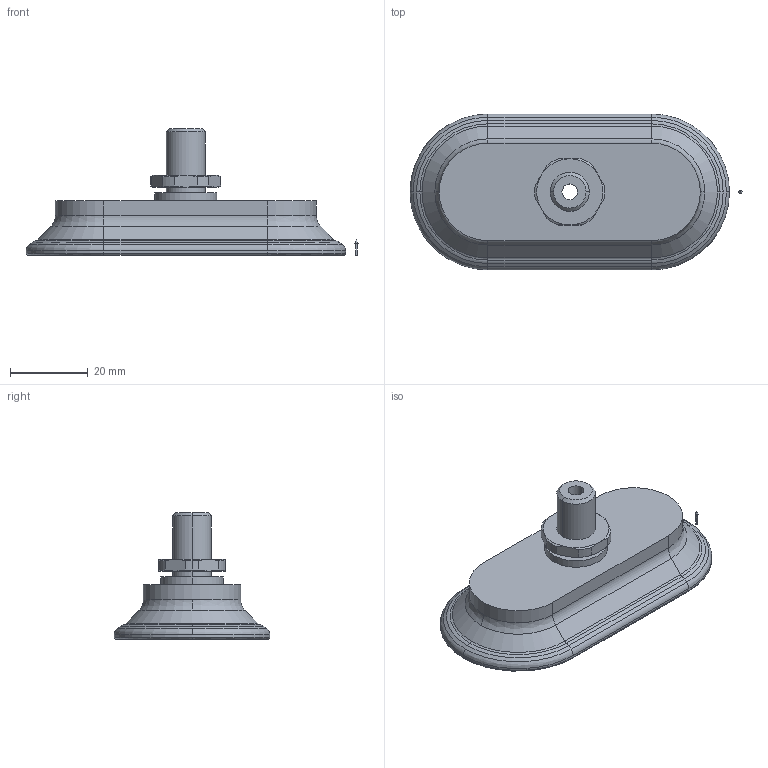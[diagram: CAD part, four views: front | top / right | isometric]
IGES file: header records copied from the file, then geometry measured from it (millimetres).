
Start section: 3D InterOp IGES (v. 2018 1.0.2), Spatial Corp. Copyright (c) 1999-2017.
Global section: file name: schmalz_10_01_05_00329_zhxma38uvq6kjlmrsaltds9d.igs; native system: Spatial Corp.; preprocessor: 3D InterOp ACIS/IGES; author: TraceParts; organization: TraceParts S.A.; date: 20181030.023920; units: millimetre
Bounding box: 85.2 x 40 x 32.5 mm (x, y, z)
Surface area: 9213.2 mm2 (no closed solid volume)
Topology: 0 solids, 0 shells, 128 faces, 570 edges, 568 vertices
Faces by surface type: revolution 92, extrusion 36
